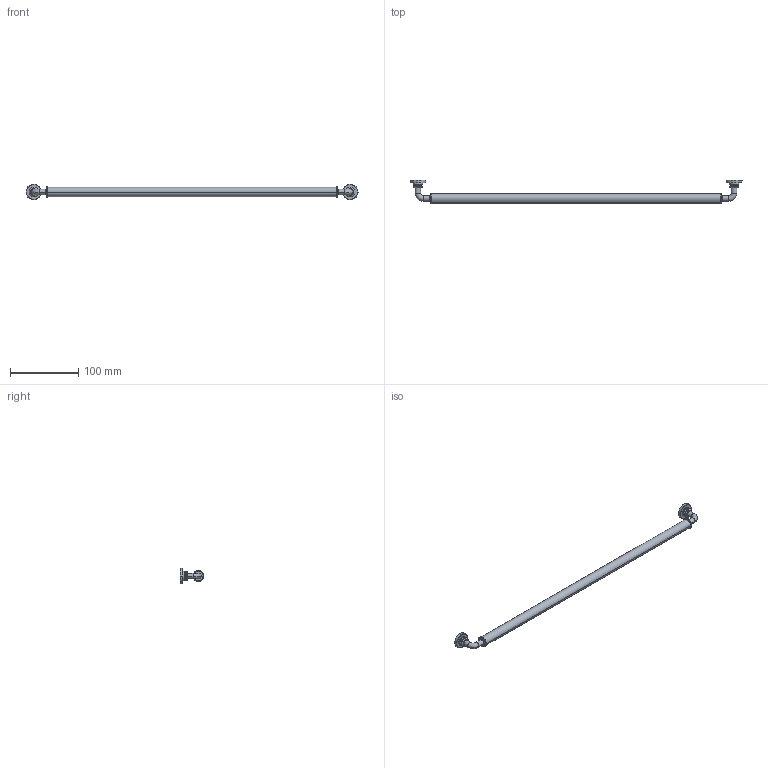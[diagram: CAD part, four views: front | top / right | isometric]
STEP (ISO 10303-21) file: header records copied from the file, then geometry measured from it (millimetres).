
FILE_DESCRIPTION( ( '' ), '1' );
FILE_NAME( 'D:/1.AUTOCAD EXPORT/Group 10/sheet_10_1/9132276.stp', '2013-10-21T06:43:03', ( '' ), ( '' ), ' ', ' ', ' ' );
FILE_SCHEMA( ( 'automotive_design' ) );
Length unit declared in the file: millimetre
Products named in the file (1): 1
Bounding box: 488 x 35 x 23 mm (x, y, z)
Volume: 74059.4 mm3; surface area: 23720.1 mm2
Topology: 1 solids, 1 shells, 95 faces, 230 edges, 141 vertices
Faces by surface type: torus 40, cone 24, cylinder 22, plane 9
Entity records: 5557 total; most frequent: DIRECTION 598, CARTESIAN_POINT 545, STYLED_ITEM 467, PRESENTATION_STYLE_ASSIGNMENT 467, COLOUR_RGB 467, ORIENTED_EDGE 460, AXIS2_PLACEMENT_3D 276, EDGE_CURVE 230
